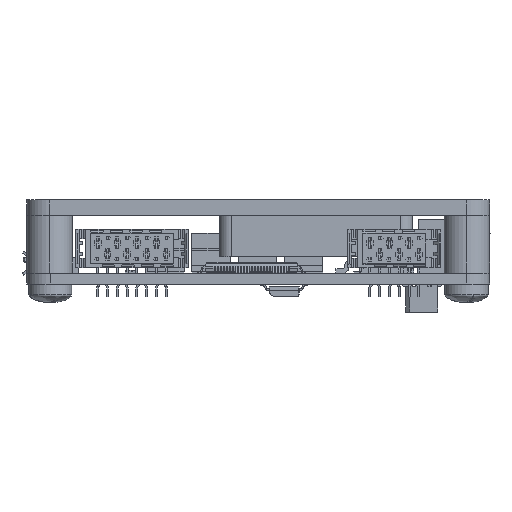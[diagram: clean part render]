
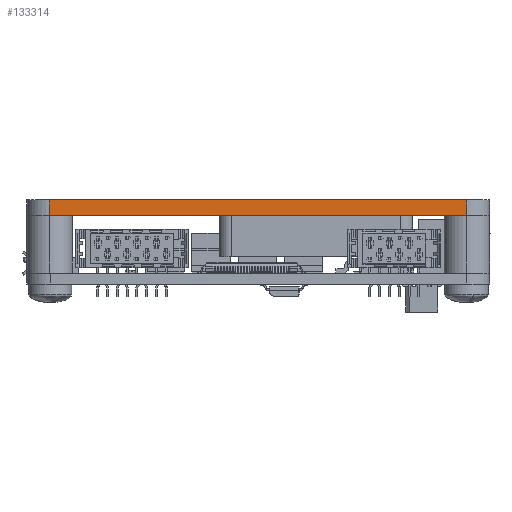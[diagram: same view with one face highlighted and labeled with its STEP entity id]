
A CAD part, front view. The second image highlights one B-rep face of the part: STEP entity #133314.
In plain terms, the highlighted planar face has unit normal (0, -1, 0) as drawn and (0, 0, -1) by its records, which use the part's own axes.
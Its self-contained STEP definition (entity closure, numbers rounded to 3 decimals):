
#13267 = VERTEX_POINT ( 'NONE', #174018 ) ;
#18446 = CARTESIAN_POINT ( 'NONE',  ( 27.05, 2., -37.5 ) ) ;
#23063 = ORIENTED_EDGE ( 'NONE', *, *, #357069, .T. ) ;
#31896 = LINE ( 'NONE', #404271, #282765 ) ;
#42709 = VERTEX_POINT ( 'NONE', #279995 ) ;
#58890 = VECTOR ( 'NONE', #66301, 1000. ) ;
#66117 = PLANE ( 'NONE',  #234299 ) ;
#66301 = DIRECTION ( 'NONE',  ( 0., -1., 0. ) ) ;
#70565 = CARTESIAN_POINT ( 'NONE',  ( 27.05, 9.5, -37.5 ) ) ;
#96947 = ORIENTED_EDGE ( 'NONE', *, *, #201472, .T. ) ;
#99135 = DIRECTION ( 'NONE',  ( 1., 0., 0. ) ) ;
#102870 = EDGE_CURVE ( 'NONE', #247537, #42709, #107477, .T. ) ;
#107145 = VECTOR ( 'NONE', #171462, 1000. ) ;
#107477 = LINE ( 'NONE', #190378, #337763 ) ;
#133314 = ADVANCED_FACE ( 'NONE', ( #315346 ), #66117, .F. ) ;
#141355 = EDGE_CURVE ( 'NONE', #407541, #42709, #209446, .T. ) ;
#171462 = DIRECTION ( 'NONE',  ( 0., 1., 0. ) ) ;
#174018 = CARTESIAN_POINT ( 'NONE',  ( 27.05, 0., -37.5 ) ) ;
#175196 = DIRECTION ( 'NONE',  ( -1., 0., 0. ) ) ;
#190378 = CARTESIAN_POINT ( 'NONE',  ( -30., 2., -37.5 ) ) ;
#199692 = ORIENTED_EDGE ( 'NONE', *, *, #141355, .T. ) ;
#201472 = EDGE_CURVE ( 'NONE', #13267, #407541, #31896, .T. ) ;
#209446 = LINE ( 'NONE', #231683, #107145 ) ;
#212652 = LINE ( 'NONE', #70565, #58890 ) ;
#231683 = CARTESIAN_POINT ( 'NONE',  ( -27.05, 9.5, -37.5 ) ) ;
#234299 = AXIS2_PLACEMENT_3D ( 'NONE', #295152, #325187, #99135 ) ;
#247537 = VERTEX_POINT ( 'NONE', #18446 ) ;
#271033 = CARTESIAN_POINT ( 'NONE',  ( -27.05, 0., -37.5 ) ) ;
#279995 = CARTESIAN_POINT ( 'NONE',  ( -27.05, 2., -37.5 ) ) ;
#282765 = VECTOR ( 'NONE', #175196, 1000. ) ;
#295152 = CARTESIAN_POINT ( 'NONE',  ( -30., 9.5, -37.5 ) ) ;
#296561 = EDGE_LOOP ( 'NONE', ( #96947, #199692, #336839, #23063 ) ) ;
#315346 = FACE_OUTER_BOUND ( 'NONE', #296561, .T. ) ;
#325187 = DIRECTION ( 'NONE',  ( 0., 0., 1. ) ) ;
#336839 = ORIENTED_EDGE ( 'NONE', *, *, #102870, .F. ) ;
#337763 = VECTOR ( 'NONE', #389343, 1000. ) ;
#357069 = EDGE_CURVE ( 'NONE', #247537, #13267, #212652, .T. ) ;
#389343 = DIRECTION ( 'NONE',  ( -1., 0., 0. ) ) ;
#404271 = CARTESIAN_POINT ( 'NONE',  ( -30., 0., -37.5 ) ) ;
#407541 = VERTEX_POINT ( 'NONE', #271033 ) ;
